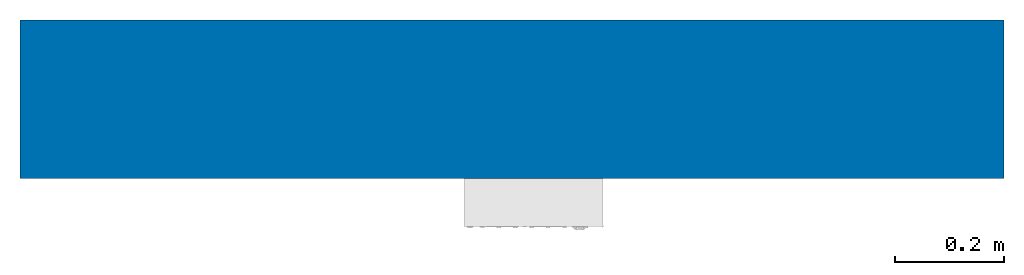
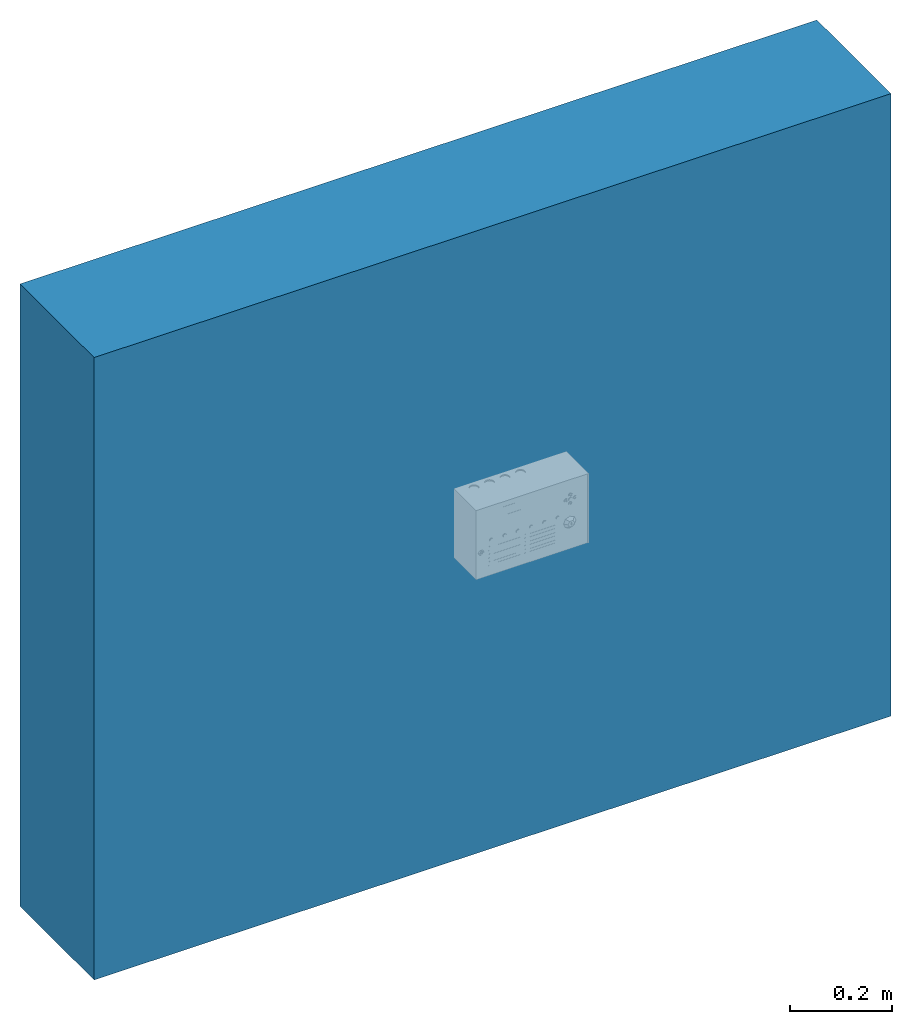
# One storey, incomplete: 1 wall.
"""IFC2X3 building model written with IfcOpenShell, lengths in millimetres."""

import ifcopenshell
import ifcopenshell.guid

model = None  # the IFC model being written
_history = None  # IfcOwnerHistory: only IFC2X3 demands one
_inside = {}  # id of a spatial element -> (the spatial element, [elements in it])
_under = {}  # id of a project, library or spatial element -> (it, [spatial elements below it])
_declared = {}  # id of a project -> (the project, [libraries it declares])
_typed = {}  # id of a type object -> (the type object, [elements of that type])
_made_of = {}  # id of a material, layer set ... -> (it, [elements and type objects made of it])


def new_model(schema):
    """Start an empty IFC model of exactly this schema.

    Asked for "IFC4X3", IfcOpenShell would pick the latest addendum, in which some entities
    have other attributes; the version numbers below select the first issue.
    IFC2X3 requires an IfcOwnerHistory on every rooted entity: one is made here for all.
    """
    global model, _history
    if schema == "IFC4X3":
        model = ifcopenshell.file(schema_version=(4, 3, 0, 0))
    else:
        model = ifcopenshell.file(schema=schema)
    _inside.clear()
    _under.clear()
    _declared.clear()
    _typed.clear()
    _made_of.clear()
    _history = None
    if model.schema == "IFC2X3":
        org = make("IfcOrganization", Name="unknown")
        user = make(
            "IfcPersonAndOrganization",
            ThePerson=make("IfcPerson", FamilyName="unknown"),
            TheOrganization=org,
        )
        app = make(
            "IfcApplication",
            ApplicationDeveloper=org,
            Version="unknown",
            ApplicationFullName="unknown",
            ApplicationIdentifier="unknown",
        )
        _history = make(
            "IfcOwnerHistory",
            OwningUser=user,
            OwningApplication=app,
            ChangeAction="ADDED",
            CreationDate=0,
        )
    return model


def make(cls, **values):
    """One entity of the class cls with the attributes given. An attribute that is None is left unset."""
    return model.create_entity(
        cls, **{name: value for name, value in values.items() if value is not None}
    )


def entity(cls, *values):
    """Any entity or typed value of the class cls, its attributes in the order of the schema. None: left unset."""
    e = model.create_entity(cls)
    for i, value in enumerate(values):
        if value is not None:
            e[i] = value
    return e


def rooted(cls, **values):
    """An entity with a GlobalId (a new one), such as an element, a storey or a relation."""
    return make(cls, GlobalId=ifcopenshell.guid.new(), OwnerHistory=_history, **values)


def si_unit(unit_type, name, prefix=None):
    """IfcSIUnit, for example si_unit("LENGTHUNIT", "METRE", prefix="MILLI")."""
    return make("IfcSIUnit", UnitType=unit_type, Prefix=prefix, Name=name)


def converted_unit(unit_type, name, factor, base, dimensions=None, offset=None):
    """IfcConversionBasedUnit, such as the inch: factor (a typed value) times the base unit."""
    return make(
        "IfcConversionBasedUnit"
        if offset is None
        else "IfcConversionBasedUnitWithOffset",
        ConversionOffset=offset,
        Dimensions=None
        if dimensions is None
        else entity("IfcDimensionalExponents", *dimensions),
        UnitType=unit_type,
        Name=name,
        ConversionFactor=make(
            "IfcMeasureWithUnit", ValueComponent=factor, UnitComponent=base
        ),
    )


def derived_unit(unit_type, elements):
    """IfcDerivedUnit: a product of units, each with its exponent."""
    return make(
        "IfcDerivedUnit",
        Elements=[
            make("IfcDerivedUnitElement", Unit=unit, Exponent=power)
            for unit, power in elements
        ],
        UnitType=unit_type,
    )


def assignment(units):
    """IfcUnitAssignment: the units of a project."""
    return None if units is None else make("IfcUnitAssignment", Units=units)


def point(xyz):
    """IfcCartesianPoint."""
    return None if xyz is None else make("IfcCartesianPoint", Coordinates=xyz)


def direction(xyz):
    """IfcDirection."""
    return None if xyz is None else make("IfcDirection", DirectionRatios=xyz)


def frame(location, z_axis=None, x_axis=None):
    """IfcAxis2Placement3D, a coordinate frame: its origin and axes. An axis left out is left unset."""
    return make(
        "IfcAxis2Placement3D",
        Location=point(location),
        Axis=direction(z_axis),
        RefDirection=direction(x_axis),
    )


def frame_2d(location, x_axis=None):
    """IfcAxis2Placement2D, a coordinate frame in the plane: its origin and x axis."""
    return make(
        "IfcAxis2Placement2D", Location=point(location), RefDirection=direction(x_axis)
    )


def origin():
    """The frame at (0, 0, 0) with its axes left unset."""
    return frame((0.0, 0.0, 0.0))


def place(relative_to, where):
    """IfcLocalPlacement: puts the frame where relative to a parent placement (None: the world)."""
    return make(
        "IfcLocalPlacement", PlacementRelTo=relative_to, RelativePlacement=where
    )


def context(
    kind, dimensions, precision=None, world=None, true_north=None, identifier=None
):
    """IfcGeometricRepresentationContext, for example the 3D "Model" context."""
    return make(
        "IfcGeometricRepresentationContext",
        ContextIdentifier=identifier,
        ContextType=kind,
        CoordinateSpaceDimension=dimensions,
        Precision=precision,
        WorldCoordinateSystem=world,
        TrueNorth=true_north,
    )


def subcontext(parent, identifier, kind, view, scale=None):
    """IfcGeometricRepresentationSubContext, for example "Body" below "Model"."""
    return make(
        "IfcGeometricRepresentationSubContext",
        ContextIdentifier=identifier,
        ContextType=kind,
        ParentContext=parent,
        TargetScale=scale,
        TargetView=view,
    )


def project(units=None, contexts=None):
    """IfcProject with its units and contexts."""
    return rooted(
        "IfcProject",
        Name="project",
        RepresentationContexts=contexts,
        UnitsInContext=assignment(units),
    )


def spatial(cls, under=None, at=None, **own):
    """A site, building, storey or space (cls), placed at a placement, below another one or the project."""
    s = rooted(cls, ObjectPlacement=at, **own)
    if under is not None:
        _under.setdefault(under.id(), (under, []))[1].append(s)
    return s


def profile(cls, at=None, kind="AREA", **sizes):
    """A parametric profile (cls). Its sizes go by their IFC names, for example OverallWidth=200.0."""
    return make(cls, ProfileType=kind, Position=at, **sizes)


def rectangle(**sizes):
    """IfcRectangleProfileDef."""
    return profile("IfcRectangleProfileDef", **sizes)


def extrude(swept, where, along, depth):
    """IfcExtrudedAreaSolid: the profile swept, set in the frame where, extruded along a direction by depth."""
    return make(
        "IfcExtrudedAreaSolid",
        SweptArea=swept,
        Position=where,
        ExtrudedDirection=direction(along),
        Depth=depth,
    )


def shape(context_of_items, identifier, shape_type, items):
    """IfcShapeRepresentation: the items that make up one representation, for example the "Body"."""
    return make(
        "IfcShapeRepresentation",
        ContextOfItems=context_of_items,
        RepresentationIdentifier=identifier,
        RepresentationType=shape_type,
        Items=items,
    )


def material(Name=None, Category=None):
    """IfcMaterial."""
    return make("IfcMaterial", Name=Name, Category=Category)


def layer(
    of_material, thickness, ventilated=None, Name=None, Category=None, Priority=None
):
    """IfcMaterialLayer: one layer of a wall or slab, of a material (None: an air gap)."""
    return make(
        "IfcMaterialLayer",
        Material=of_material,
        LayerThickness=thickness,
        IsVentilated=ventilated,
        Name=Name,
        Category=Category,
        Priority=Priority,
    )


def layer_set(layers, Name=None):
    """IfcMaterialLayerSet."""
    return make("IfcMaterialLayerSet", MaterialLayers=layers, LayerSetName=Name)


def layer_usage(for_layer_set, set_direction, sense, offset, extent=None):
    """IfcMaterialLayerSetUsage: how a layer set lies in its element."""
    return make(
        "IfcMaterialLayerSetUsage",
        ForLayerSet=for_layer_set,
        LayerSetDirection=set_direction,
        DirectionSense=sense,
        OffsetFromReferenceLine=offset,
        ReferenceExtent=extent,
    )


def made_of(thing, what):
    """Note that an element or type object is made of a material, layer set ...; save() writes the relation."""
    if what is not None:
        _made_of.setdefault(what.id(), (what, []))[1].append(thing)
    return thing


def type_object(cls, material=None, **own):
    """A type object (cls), such as IfcWallType, which elements share."""
    return made_of(rooted(cls, **own), material)


def element(
    cls,
    number,
    at=None,
    inside=None,
    cuts=None,
    type_object=None,
    material=None,
    context=None,
    identifier="Body",
    shape_type=None,
    held_by="IfcProductDefinitionShape",
    body=None,
    shapes=None,
    **own,
):
    """One element of the class cls, such as IfcWall. Its Tag is "e" and its number.

    at: its placement. inside: the storey or other place that contains it. cuts: it is an
    opening in that element (IfcRelVoidsElement). A single representation is given by context,
    identifier, shape_type and body (its items); several are given by shapes. held_by: the class
    of the entity that holds the representations. save() writes the other relations.
    """
    e = rooted(cls, Tag="e%d" % number, ObjectPlacement=at, **own)
    if body is not None:
        shapes = [shape(context, identifier, shape_type, body)]
    if shapes is not None:
        e.Representation = make(held_by, Representations=shapes)
    if inside is not None:
        _inside.setdefault(inside.id(), (inside, []))[1].append(e)
    if cuts is not None:
        rooted(
            "IfcRelVoidsElement", RelatingBuildingElement=cuts, RelatedOpeningElement=e
        )
    if type_object is not None:
        _typed.setdefault(type_object.id(), (type_object, []))[1].append(e)
    return made_of(e, material)


def aggregate(whole, parts):
    """IfcRelAggregates: a whole, such as a stair, and the parts it consists of."""
    return rooted("IfcRelAggregates", RelatingObject=whole, RelatedObjects=parts)


def save(model, path):
    """Write the relations noted so far, then the file.

    IfcRelAggregates (storeys below a building ...), IfcRelContainedInSpatialStructure (elements
    in a storey), IfcRelDefinesByType, IfcRelAssociatesMaterial and IfcRelDeclares: one each for
    every whole, place, type object, material and project.
    """
    for whole, parts in _under.values():
        aggregate(whole, parts)
    for where, things in _inside.values():
        rooted(
            "IfcRelContainedInSpatialStructure",
            RelatedElements=things,
            RelatingStructure=where,
        )
    for kind, things in _typed.values():
        rooted("IfcRelDefinesByType", RelatedObjects=things, RelatingType=kind)
    for what, things in _made_of.values():
        rooted("IfcRelAssociatesMaterial", RelatedObjects=things, RelatingMaterial=what)
    for by, libraries in _declared.values():
        rooted("IfcRelDeclares", RelatingContext=by, RelatedDefinitions=libraries)
    model.write(path)


model = new_model("IFC2X3")

# Units and contexts
model_context = context("Model", 3, precision=1e-05, world=origin(), true_north=direction((2.0, 6.12303176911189e-17, 1.0)))
context_of_model = context(None, 3, precision=1e-05, world=origin(), true_north=direction((2.0, 6.12303176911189e-17, 1.0)))
body_context = subcontext(model_context, "Body", "Model", "MODEL_VIEW")
ifc_project = project(units=[si_unit("LENGTHUNIT", "METRE", prefix="MILLI"), si_unit("AREAUNIT", "SQUARE_METRE"), si_unit("VOLUMEUNIT", "CUBIC_METRE"), converted_unit("PLANEANGLEUNIT", "DEGREE", entity("IfcRatioMeasure", 0.0174532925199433), si_unit("PLANEANGLEUNIT", "RADIAN"), dimensions=[0, 0, 0, 0, 0, 0, 0]), si_unit("MASSUNIT", "GRAM", prefix="KILO"), si_unit("TIMEUNIT", "SECOND"), si_unit("THERMODYNAMICTEMPERATUREUNIT", "KELVIN"), derived_unit("THERMALTRANSMITTANCEUNIT", [(si_unit("MASSUNIT", "GRAM", prefix="KILO"), 1), (si_unit("THERMODYNAMICTEMPERATUREUNIT", "KELVIN"), -1), (si_unit("TIMEUNIT", "SECOND"), -3)]), derived_unit("VOLUMETRICFLOWRATEUNIT", [(si_unit("LENGTHUNIT", "METRE"), 3), (si_unit("TIMEUNIT", "SECOND"), -1)]), si_unit("POWERUNIT", "WATT")], contexts=[model_context, context_of_model])

# Site, building, storey
site_placement = place(None, origin())
site = spatial("IfcSite", under=ifc_project, at=site_placement, Name="Default", CompositionType="ELEMENT")
building_placement = place(site_placement, origin())
building = spatial("IfcBuilding", under=site, at=building_placement, CompositionType="ELEMENT")
storey_placement = place(building_placement, origin())
storey = spatial("IfcBuildingStorey", under=building, at=storey_placement, Name="Level 0", CompositionType="ELEMENT", Elevation=0.0)

# Wall
ifc_material_1 = material(Name="Brick, Common")
ifc_layer_1 = layer(ifc_material_1, 102.5)
ifc_material_2 = material(Name="Fiberglass Batt")
ifc_layer_2 = layer(ifc_material_2, 75.0)
ifc_material_3 = material(Name="Concrete Masonry Units")
ifc_layer_3 = layer(ifc_material_3, 100.0)
ifc_material_4 = material(Name="Gypsum Wall Board")
ifc_layer_4 = layer(ifc_material_4, 12.5)
ifc_layer_set = layer_set([ifc_layer_1, ifc_layer_2, ifc_layer_3, ifc_layer_4], Name="Basic Wall:Cav - 102 75i 100 p - Lwt")
ifc_layer_usage = layer_usage(ifc_layer_set, "AXIS2", "NEGATIVE", 145.0)
wall_type = type_object("IfcWallType", Name="Basic Wall:Cav - 102 75i 100 p - Lwt", PredefinedType="STANDARD", material=ifc_layer_set)
wall_placement = place(storey_placement, frame((-7656.76701406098, 1531.35000970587, 1117.44200066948)))
element("IfcWallStandardCase", 1, at=wall_placement, inside=storey, type_object=wall_type, material=ifc_layer_usage, Name="Basic Wall:Cav - 102 75i 100 p - Lwt", ObjectType="Basic Wall:Cav - 102 75i 100 p - Lwt", context=body_context, shape_type="SweptSolid", body=[
    extrude(rectangle(XDim=1800.0, YDim=290.0, at=frame_2d((900.0, 0.0), x_axis=(-1.0, 0.0))), origin(), (0.0, 0.0, 1.0), 1486.3189684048),
])

save(model, "model.ifc")
